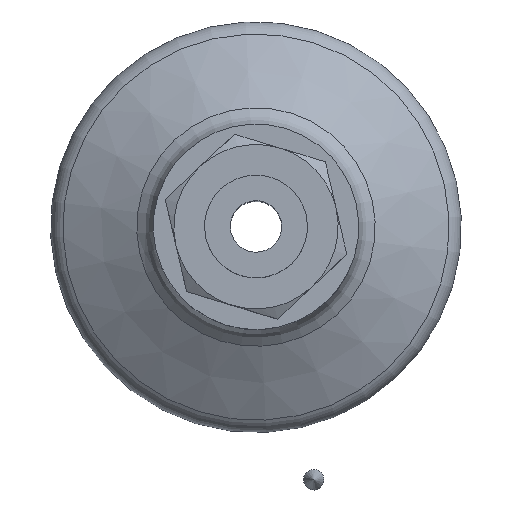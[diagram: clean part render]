
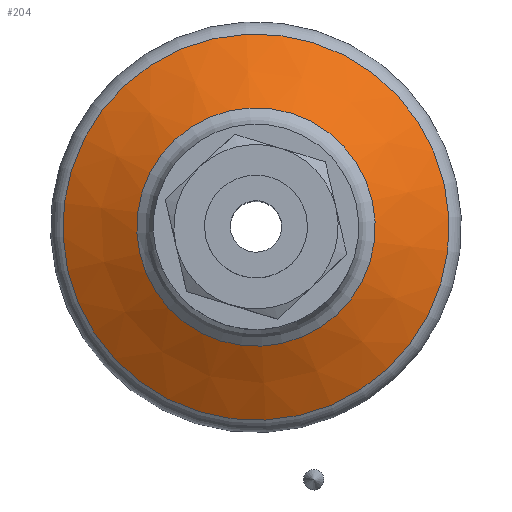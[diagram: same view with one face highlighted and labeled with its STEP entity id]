
A CAD part, top view. The second image highlights one B-rep face of the part: STEP entity #204.
In plain terms, the highlighted conical face has half-angle 60.04 degrees and reference radius 5.801 mm.
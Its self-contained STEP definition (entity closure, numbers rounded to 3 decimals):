
#204=ADVANCED_FACE('',(#404,#405),#406,.T.);
#404=FACE_OUTER_BOUND('',#603,.T.);
#405=FACE_BOUND('',#604,.T.);
#406=CONICAL_SURFACE('',#605,5.801,1.048);
#603=EDGE_LOOP('',(#932));
#604=EDGE_LOOP('',(#933));
#605=AXIS2_PLACEMENT_3D('',#934,#935,#936);
#932=ORIENTED_EDGE('',*,*,#1108,.F.);
#933=ORIENTED_EDGE('',*,*,#1104,.F.);
#934=CARTESIAN_POINT('',(0.0,0.0,9.114));
#935=DIRECTION('',(0.0,-0.0,-1.0));
#936=DIRECTION('',(1.0,0.0,0.0));
#1104=EDGE_CURVE('',#1271,#1271,#1272,.T.);
#1108=EDGE_CURVE('',#1277,#1277,#1278,.T.);
#1271=VERTEX_POINT('',#1536);
#1272=CIRCLE('',#1537,5.801);
#1277=VERTEX_POINT('',#1542);
#1278=CIRCLE('',#1543,9.399);
#1536=CARTESIAN_POINT('',(0.0,-5.801,9.114));
#1537=AXIS2_PLACEMENT_3D('',#1672,#1673,#1674);
#1542=CARTESIAN_POINT('',(0.0,-9.399,7.04));
#1543=AXIS2_PLACEMENT_3D('',#1678,#1679,#1680);
#1672=CARTESIAN_POINT('',(0.0,0.0,9.114));
#1673=DIRECTION('',(0.0,0.0,1.0));
#1674=DIRECTION('',(0.0,-1.0,0.0));
#1678=CARTESIAN_POINT('',(0.0,0.0,7.04));
#1679=DIRECTION('',(0.0,0.0,-1.0));
#1680=DIRECTION('',(0.0,-1.0,0.0));
